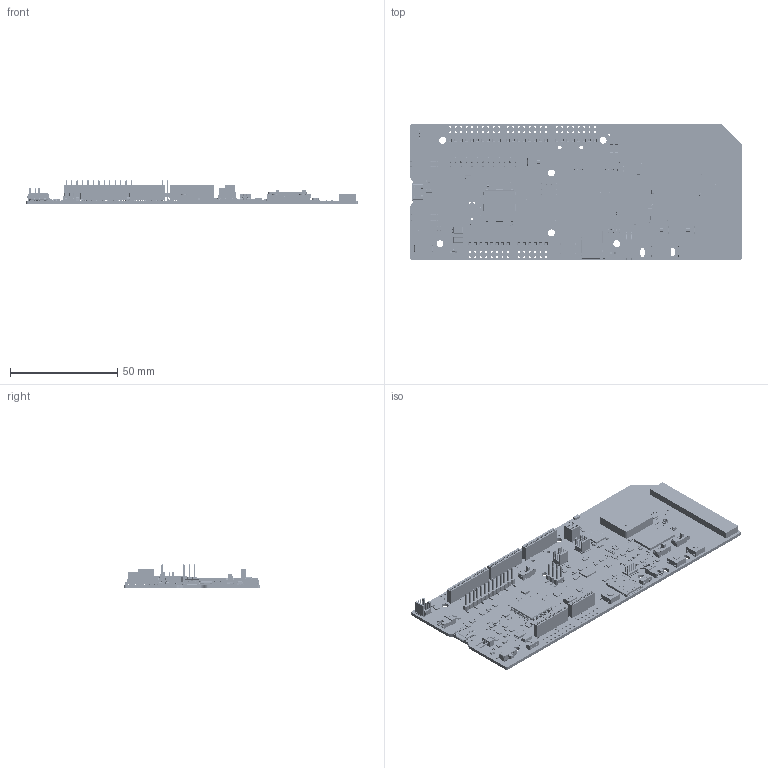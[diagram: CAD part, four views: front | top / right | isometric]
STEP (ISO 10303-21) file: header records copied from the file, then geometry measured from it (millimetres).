
FILE_DESCRIPTION(('Open CASCADE Model'),'2;1');
FILE_NAME('Open CASCADE Shape Model','2022-11-30T13:33:57',('Author'),( 'Open CASCADE'),'Open CASCADE STEP processor 7.5','Open CASCADE 7.5' ,'Unknown');
FILE_SCHEMA(('AUTOMOTIVE_DESIGN { 1 0 10303 214 1 1 1 1 }'));
Length unit declared in the file: millimetre
Products named in the file (615): PCB; Board; Open CASCADE STEP translator 7.5 1.1.1; R2; User Library-res0201-1; C2; User Library-0201(0603M) Cap; C4; C10; C1; C8; C7; C9; SW3dPS-0805 SMD Capacitor; C3; Q13; 7766362256; Open CASCADE STEP translator 6.8 8.1; Body; Open CASCADE STEP translator 6.8 8.2.1; lead; Q14; R107; R106; U36; 7766362976; Open CASCADE STEP translator 6.8 1.1; Open CASCADE STEP translator 6.8 1.2.1; Pin_Shape; Open CASCADE STEP translator 6.8 1.3.1; C83; Y2; User Library-Control System_FCI_68786-102LF; U35; User Library-XQFN-16-1; 7891209344; Extruded; R5; C81; P30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
Assembly tree (1002 placements, depth 5):
  PCB
    Board
      Open CASCADE STEP translator 7.5 1.1.1
    R2
      User Library-res0201-1
    C2
      User Library-0201(0603M) Cap
    C4
      User Library-0201(0603M) Cap
    C10
      User Library-0201(0603M) Cap
    C1
      User Library-0201(0603M) Cap
    C8
      User Library-0201(0603M) Cap
    C7
      User Library-0201(0603M) Cap
    C9
      SW3dPS-0805 SMD Capacitor
    C3
      SW3dPS-0805 SMD Capacitor
    Q13
      7766362256
        Open CASCADE STEP translator 6.8 8.1
        Body
          Open CASCADE STEP translator 6.8 8.2.1
        lead  x6
    Q14
      7766362256
        Open CASCADE STEP translator 6.8 8.1
        Body
          Open CASCADE STEP translator 6.8 8.2.1
        lead  x6
    R107
      User Library-res0201-1
    R106
      User Library-res0201-1
    U36
      7766362976
        Open CASCADE STEP translator 6.8 1.1
        Body
          Open CASCADE STEP translator 6.8 1.2.1
        Pin_Shape  x10
          Open CASCADE STEP translator 6.8 1.3.1
    C83
      User Library-0201(0603M) Cap
    Y2
      User Library-Control System_FCI_68786-102LF
    U35
      User Library-XQFN-16-1
      7891209344
        Extruded
    R5
      User Library-res0201-1
    C81
      User Library-0201(0603M) Cap
    P30
      Samtec-TSM-102-01-L-SH-A
    U37
      7766363616
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Bounding box: 155 x 63.5 x 11.34 mm (x, y, z)
Volume: 21682.2 mm3; surface area: 34803.9 mm2
Topology: 798 solids, 833 shells, 30906 faces, 78300 edges, 49017 vertices
Faces by surface type: plane 21501, bspline 4712, cylinder 4147, sphere 253, extrusion 222, cone 39, torus 30, revolution 2
Full cylindrical faces by diameter (mm): 0.106 x2, 0.131 x1, 0.163 x3, 0.175 x6, 0.231 x1, 0.25 x80, 0.263 x6, 0.3 x1, 0.375 x1, 0.4 x1, 0.562 x1, 0.6 x3, 0.74 x1, 0.762 x1, 0.8 x1, 0.9 x82, 0.99 x3, 1 x2, 1.78 x5, 1.8 x2, 2 x2, 2.05 x2, 2.1 x4, 3.2 x6
Entity records: 364050 total; most frequent: CARTESIAN_POINT 80756, ORIENTED_EDGE 50316, DIRECTION 47575, EDGE_CURVE 25170, VECTOR 19845, LINE 19717, VERTEX_POINT 16078, AXIS2_PLACEMENT_3D 13864
